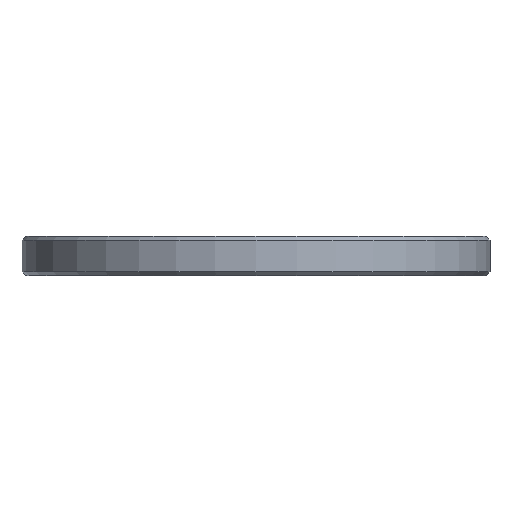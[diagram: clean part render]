
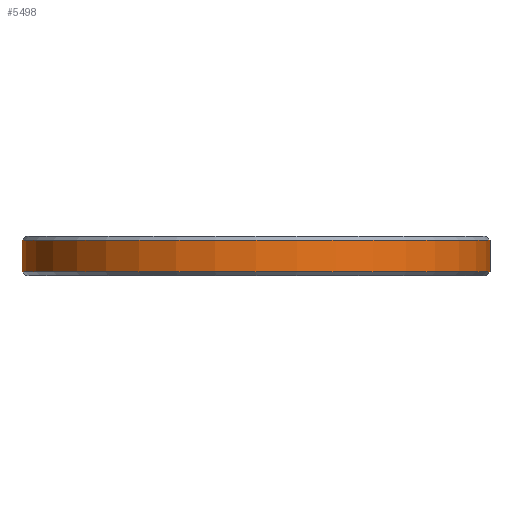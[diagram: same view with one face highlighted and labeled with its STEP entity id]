
A CAD part, front view. The second image highlights one B-rep face of the part: STEP entity #5498.
In plain terms, the highlighted cylindrical face has radius 18.75 mm (diameter 37.5 mm), a full revolution.
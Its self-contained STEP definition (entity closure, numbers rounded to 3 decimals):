
#307=CYLINDRICAL_SURFACE('',#5822,18.75);
#575=FACE_OUTER_BOUND('',#880,.T.);
#880=EDGE_LOOP('',(#5159,#5160,#5161,#5162));
#1613=LINE('',#8720,#2342);
#2342=VECTOR('',#7158,18.75);
#2382=CIRCLE('',#5821,18.75);
#2383=CIRCLE('',#5823,18.75);
#2886=VERTEX_POINT('',#8714);
#2887=VERTEX_POINT('',#8718);
#3644=EDGE_CURVE('',#2886,#2886,#2382,.T.);
#3646=EDGE_CURVE('',#2887,#2887,#2383,.T.);
#3647=EDGE_CURVE('',#2887,#2886,#1613,.T.);
#5159=ORIENTED_EDGE('',*,*,#3646,.F.);
#5160=ORIENTED_EDGE('',*,*,#3647,.T.);
#5161=ORIENTED_EDGE('',*,*,#3644,.F.);
#5162=ORIENTED_EDGE('',*,*,#3647,.F.);
#5498=ADVANCED_FACE('',(#575),#307,.T.);
#5821=AXIS2_PLACEMENT_3D('',#8715,#7151,#7152);
#5822=AXIS2_PLACEMENT_3D('',#8717,#7154,#7155);
#5823=AXIS2_PLACEMENT_3D('',#8719,#7156,#7157);
#7151=DIRECTION('center_axis',(0.,0.,-1.));
#7152=DIRECTION('ref_axis',(1.,0.,0.));
#7154=DIRECTION('center_axis',(0.,0.,1.));
#7155=DIRECTION('ref_axis',(1.,0.,0.));
#7156=DIRECTION('center_axis',(0.,0.,1.));
#7157=DIRECTION('ref_axis',(1.,0.,0.));
#7158=DIRECTION('',(0.,0.,-1.));
#8714=CARTESIAN_POINT('',(-18.75,0.,0.3));
#8715=CARTESIAN_POINT('Origin',(0.,0.,0.3));
#8717=CARTESIAN_POINT('Origin',(0.,0.,0.));
#8718=CARTESIAN_POINT('',(-18.75,0.,2.825));
#8719=CARTESIAN_POINT('Origin',(0.,0.,2.825));
#8720=CARTESIAN_POINT('',(-18.75,0.,0.));
